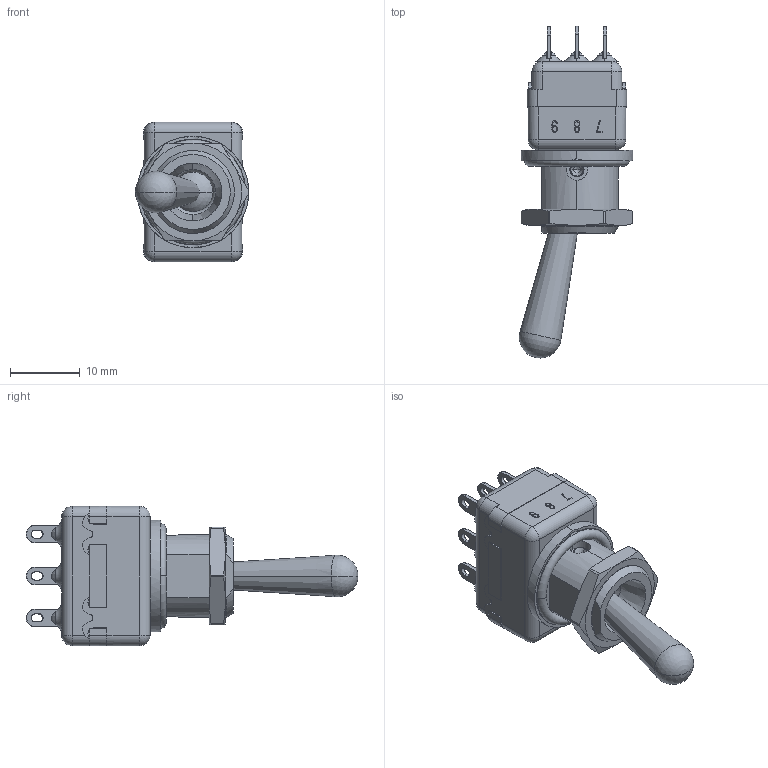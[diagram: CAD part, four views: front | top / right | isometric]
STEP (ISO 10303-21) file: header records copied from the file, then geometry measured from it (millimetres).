
FILE_DESCRIPTION((''),'2;1');
FILE_NAME('12156X408','2008-09-23T',('gdanezan'),(''),'PRO/ENGINEER BY PARAMETRIC TECHNOLOGY CORPORATION, 2007030','PRO/ENGINEER BY PARAMETRIC TECHNOLOGY CORPORATION, 2007030','');
FILE_SCHEMA(('CONFIG_CONTROL_DESIGN'));
Length unit declared in the file: millimetre
Products named in the file (1): 12156X408
Bounding box: 16.27 x 47.63 x 20 mm (x, y, z)
Volume: 3421.6 mm3; surface area: 6222.2 mm2
Topology: 4 solids, 4 shells, 1085 faces, 3203 edges, 2077 vertices
Faces by surface type: plane 785, cylinder 191, cone 31, bspline 30, torus 28, sphere 20
Entity records: 38468 total; most frequent: CARTESIAN_POINT 9502, ORIENTED_EDGE 6398, DIRECTION 5611, EDGE_CURVE 3199, VECTOR 2441, LINE 2441, VERTEX_POINT 2077, AXIS2_PLACEMENT_3D 1585
